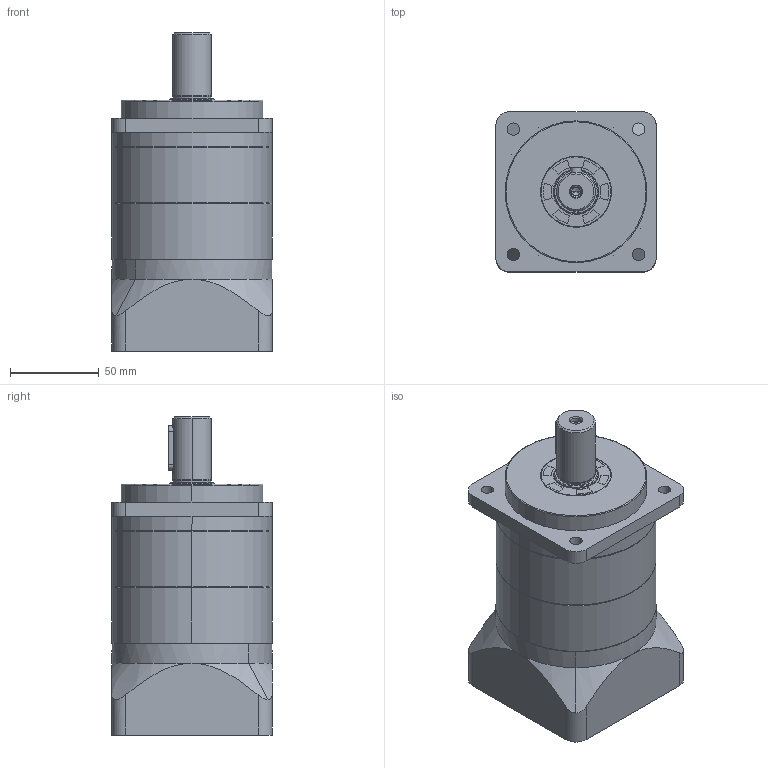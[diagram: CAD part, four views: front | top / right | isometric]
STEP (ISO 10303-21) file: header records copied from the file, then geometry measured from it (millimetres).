
FILE_DESCRIPTION (( 'STEP AP203' ), '1' );
FILE_NAME ('SA90-L2(14-60-98.7-M6).STEP', '2021-12-14T05:29:03', ( '' ), ( '' ), 'SwSTEP 2.0', 'SolidWorks 2016', '' );
FILE_SCHEMA (( 'CONFIG_CONTROL_DESIGN' ));
Length unit declared in the file: millimetre
Products named in the file (9): SN90; SN90-25x40x5; SA90-(80x10-100-7); SN90-(22x37-6x25); SA90-L2(14-60-98.7-M6); 90-(o19-14x26); SN90-48x27x15-M6; SN90-(19); SN90-(60-98.7-M6)
Assembly tree (9 placements, depth 2):
  SA90-L2(14-60-98.7-M6)
    SA90-(80x10-100-7)
    SN90-25x40x5
    SN90-(22x37-6x25)
    SN90  x2
    SN90-(60-98.7-M6)
    SN90-(19)
    SN90-48x27x15-M6
    90-(o19-14x26)
Bounding box: 90.5 x 90.5 x 179.5 mm (x, y, z)
Volume: 906955.9 mm3; surface area: 156946.8 mm2
Topology: 11 solids, 11 shells, 450 faces, 1153 edges, 733 vertices
Faces by surface type: cylinder 246, plane 117, cone 51, bspline 30, torus 6
Entity records: 30945 total; most frequent: CARTESIAN_POINT 19996, ORIENTED_EDGE 2162, DIRECTION 2030, EDGE_CURVE 1081, AXIS2_PLACEMENT_3D 792, VERTEX_POINT 701, EDGE_LOOP 506, VECTOR 446
